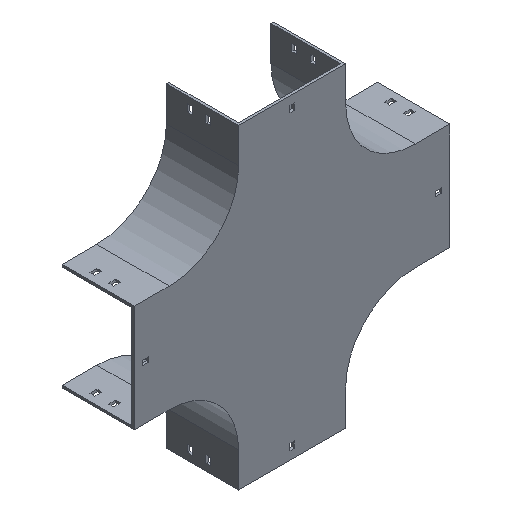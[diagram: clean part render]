
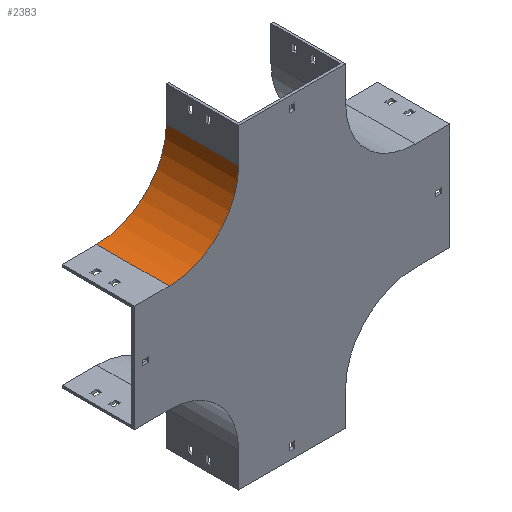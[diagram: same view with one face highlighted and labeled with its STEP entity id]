
A CAD part, isometric view. The second image highlights one B-rep face of the part: STEP entity #2383.
In plain terms, the highlighted cylindrical face has radius 100 mm (diameter 200 mm), a partial arc.
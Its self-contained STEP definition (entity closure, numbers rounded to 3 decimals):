
#63 = EDGE_CURVE ( 'NONE', #2427, #2855, #1836, .T. ) ;
#140 = VECTOR ( 'NONE', #552, 1000. ) ;
#335 = CARTESIAN_POINT ( 'NONE',  ( -354., 104., 0. ) ) ;
#357 = DIRECTION ( 'NONE',  ( 0., -1., 0. ) ) ;
#552 = DIRECTION ( 'NONE',  ( 0., -1., 0. ) ) ;
#605 = CARTESIAN_POINT ( 'NONE',  ( -254., 104., 0. ) ) ;
#901 = DIRECTION ( 'NONE',  ( 0., -1., 0. ) ) ;
#926 = AXIS2_PLACEMENT_3D ( 'NONE', #1150, #2305, #3462 ) ;
#1014 = VECTOR ( 'NONE', #357, 1000. ) ;
#1150 = CARTESIAN_POINT ( 'NONE',  ( -354., 0., 0. ) ) ;
#1227 = EDGE_CURVE ( 'NONE', #2427, #1951, #3499, .T. ) ;
#1282 = DIRECTION ( 'NONE',  ( 0., 0., 1. ) ) ;
#1441 = ORIENTED_EDGE ( 'NONE', *, *, #63, .T. ) ;
#1545 = AXIS2_PLACEMENT_3D ( 'NONE', #2643, #901, #3780 ) ;
#1549 = EDGE_LOOP ( 'NONE', ( #2183, #2122, #3519, #1441 ) ) ;
#1621 = CARTESIAN_POINT ( 'NONE',  ( -254., 0., 0. ) ) ;
#1836 = LINE ( 'NONE', #3839, #1014 ) ;
#1875 = DIRECTION ( 'NONE',  ( 0., -1., 0. ) ) ;
#1951 = VERTEX_POINT ( 'NONE', #605 ) ;
#1984 = CARTESIAN_POINT ( 'NONE',  ( -354., 0., -100. ) ) ;
#2122 = ORIENTED_EDGE ( 'NONE', *, *, #3154, .F. ) ;
#2183 = ORIENTED_EDGE ( 'NONE', *, *, #2377, .T. ) ;
#2305 = DIRECTION ( 'NONE',  ( 0., -1., 0. ) ) ;
#2377 = EDGE_CURVE ( 'NONE', #2855, #2748, #2459, .T. ) ;
#2383 = ADVANCED_FACE ( 'NONE', ( #3161 ), #3229, .F. ) ;
#2427 = VERTEX_POINT ( 'NONE', #2727 ) ;
#2459 = CIRCLE ( 'NONE', #926, 100. ) ;
#2643 = CARTESIAN_POINT ( 'NONE',  ( -354., 104., 0. ) ) ;
#2727 = CARTESIAN_POINT ( 'NONE',  ( -354., 104., -100. ) ) ;
#2748 = VERTEX_POINT ( 'NONE', #1621 ) ;
#2855 = VERTEX_POINT ( 'NONE', #1984 ) ;
#2890 = LINE ( 'NONE', #3497, #140 ) ;
#3003 = AXIS2_PLACEMENT_3D ( 'NONE', #335, #1875, #1282 ) ;
#3154 = EDGE_CURVE ( 'NONE', #1951, #2748, #2890, .T. ) ;
#3161 = FACE_OUTER_BOUND ( 'NONE', #1549, .T. ) ;
#3229 = CYLINDRICAL_SURFACE ( 'NONE', #1545, 100. ) ;
#3462 = DIRECTION ( 'NONE',  ( 0., 0., 1. ) ) ;
#3497 = CARTESIAN_POINT ( 'NONE',  ( -254., 104., 0. ) ) ;
#3499 = CIRCLE ( 'NONE', #3003, 100. ) ;
#3519 = ORIENTED_EDGE ( 'NONE', *, *, #1227, .F. ) ;
#3780 = DIRECTION ( 'NONE',  ( 0., 0., -1. ) ) ;
#3839 = CARTESIAN_POINT ( 'NONE',  ( -354., 104., -100. ) ) ;
